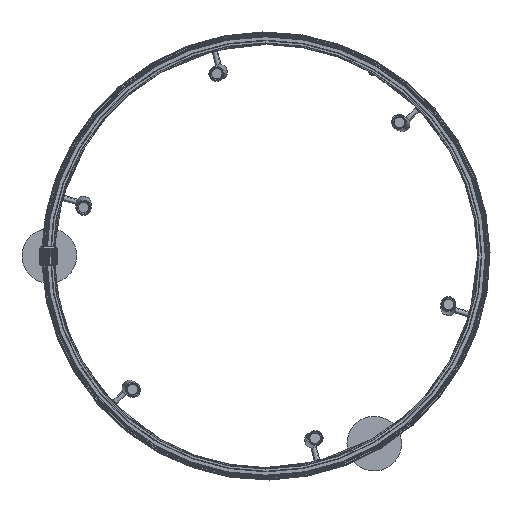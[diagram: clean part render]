
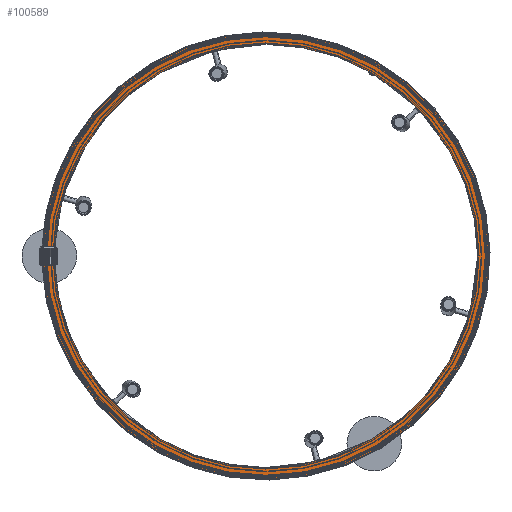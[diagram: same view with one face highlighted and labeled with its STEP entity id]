
A CAD part, left-side view. The second image highlights one B-rep face of the part: STEP entity #100589.
In plain terms, the highlighted planar face has unit normal (-1, 0, 0).
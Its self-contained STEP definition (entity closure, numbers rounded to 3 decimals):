
#3678 = EDGE_LOOP ( 'NONE', ( #218222, #22100 ) ) ;
#6280 = DIRECTION ( 'NONE',  ( -1., 0., 0. ) ) ;
#12697 = VERTEX_POINT ( 'NONE', #46412 ) ;
#14727 = AXIS2_PLACEMENT_3D ( 'NONE', #44049, #180817, #100574 ) ;
#22100 = ORIENTED_EDGE ( 'NONE', *, *, #127483, .T. ) ;
#25000 = EDGE_CURVE ( 'NONE', #235079, #115667, #212342, .T. ) ;
#30587 = EDGE_LOOP ( 'NONE', ( #247832, #80108 ) ) ;
#36320 = VERTEX_POINT ( 'NONE', #243861 ) ;
#43913 = DIRECTION ( 'NONE',  ( 0., 0., 1. ) ) ;
#44049 = CARTESIAN_POINT ( 'NONE',  ( -15., -348.15, 0. ) ) ;
#45163 = PLANE ( 'NONE',  #97533 ) ;
#46412 = CARTESIAN_POINT ( 'NONE',  ( -15., -348.15, 348.45 ) ) ;
#67996 = CARTESIAN_POINT ( 'NONE',  ( -15., -348.15, -367.745 ) ) ;
#68134 = AXIS2_PLACEMENT_3D ( 'NONE', #186979, #243489, #168172 ) ;
#69685 = EDGE_CURVE ( 'NONE', #115667, #235079, #181910, .T. ) ;
#73662 = AXIS2_PLACEMENT_3D ( 'NONE', #191845, #194352, #193094 ) ;
#80108 = ORIENTED_EDGE ( 'NONE', *, *, #25000, .F. ) ;
#97533 = AXIS2_PLACEMENT_3D ( 'NONE', #195796, #6280, #43913 ) ;
#100574 = DIRECTION ( 'NONE',  ( 0., 0., -1. ) ) ;
#100589 = ADVANCED_FACE ( 'NONE', ( #138079, #237196 ), #45163, .T. ) ;
#115667 = VERTEX_POINT ( 'NONE', #67996 ) ;
#123501 = EDGE_CURVE ( 'NONE', #36320, #12697, #222438, .T. ) ;
#127483 = EDGE_CURVE ( 'NONE', #12697, #36320, #215064, .T. ) ;
#138079 = FACE_BOUND ( 'NONE', #3678, .T. ) ;
#138795 = CARTESIAN_POINT ( 'NONE',  ( -15., -348.15, 367.745 ) ) ;
#163965 = DIRECTION ( 'NONE',  ( 0., 0., -1. ) ) ;
#168172 = DIRECTION ( 'NONE',  ( 0., 0., -1. ) ) ;
#180817 = DIRECTION ( 'NONE',  ( 1., 0., 0. ) ) ;
#181910 = CIRCLE ( 'NONE', #73662, 367.745 ) ;
#186979 = CARTESIAN_POINT ( 'NONE',  ( -15., -348.15, 0. ) ) ;
#191845 = CARTESIAN_POINT ( 'NONE',  ( -15., -348.15, 0. ) ) ;
#193094 = DIRECTION ( 'NONE',  ( 0., 0., -1. ) ) ;
#194352 = DIRECTION ( 'NONE',  ( 1., 0., 0. ) ) ;
#195796 = CARTESIAN_POINT ( 'NONE',  ( -15., 19.595, 0. ) ) ;
#199149 = DIRECTION ( 'NONE',  ( 1., 0., 0. ) ) ;
#212342 = CIRCLE ( 'NONE', #68134, 367.745 ) ;
#215064 = CIRCLE ( 'NONE', #14727, 348.45 ) ;
#218222 = ORIENTED_EDGE ( 'NONE', *, *, #123501, .T. ) ;
#222438 = CIRCLE ( 'NONE', #230459, 348.45 ) ;
#230459 = AXIS2_PLACEMENT_3D ( 'NONE', #236826, #199149, #163965 ) ;
#235079 = VERTEX_POINT ( 'NONE', #138795 ) ;
#236826 = CARTESIAN_POINT ( 'NONE',  ( -15., -348.15, 0. ) ) ;
#237196 = FACE_OUTER_BOUND ( 'NONE', #30587, .T. ) ;
#243489 = DIRECTION ( 'NONE',  ( 1., 0., 0. ) ) ;
#243861 = CARTESIAN_POINT ( 'NONE',  ( -15., -348.15, -348.45 ) ) ;
#247832 = ORIENTED_EDGE ( 'NONE', *, *, #69685, .F. ) ;
